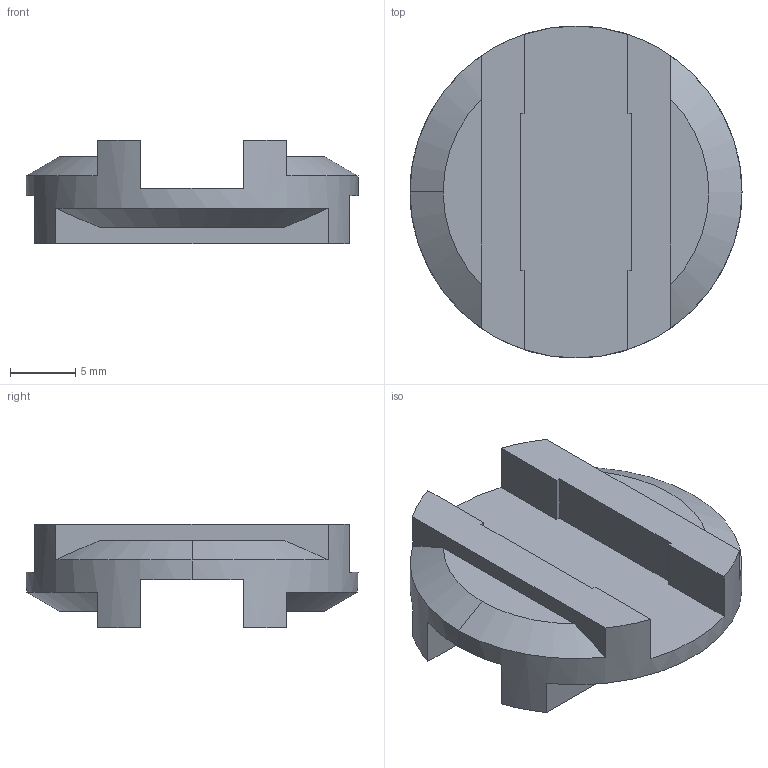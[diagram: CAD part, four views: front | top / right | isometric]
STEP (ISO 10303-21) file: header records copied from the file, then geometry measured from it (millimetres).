
FILE_DESCRIPTION((''),'2;1');
FILE_NAME('OD16-25','2016-09-09T',('SYSTEM'),(''),'PRO/ENGINEER BY PARAMETRIC TECHNOLOGY CORPORATION, 2015110','PRO/ENGINEER BY PARAMETRIC TECHNOLOGY CORPORATION, 2015110','');
FILE_SCHEMA(('AUTOMOTIVE_DESIGN { 1 0 10303 214 1 1 1 1 }'));
Length unit declared in the file: inch
Products named in the file (1): OD16-25
Bounding box: 25.4 x 25.4 x 7.92 mm (x, y, z)
Volume: 1941.2 mm3; surface area: 1780.5 mm2
Topology: 1 solids, 1 shells, 41 faces, 117 edges, 78 vertices
Faces by surface type: plane 34, cone 5, cylinder 2
Entity records: 1705 total; most frequent: CARTESIAN_POINT 272, ORIENTED_EDGE 234, DIRECTION 217, EDGE_CURVE 117, VECTOR 83, LINE 83, VERTEX_POINT 78, AXIS2_PLACEMENT_3D 67
